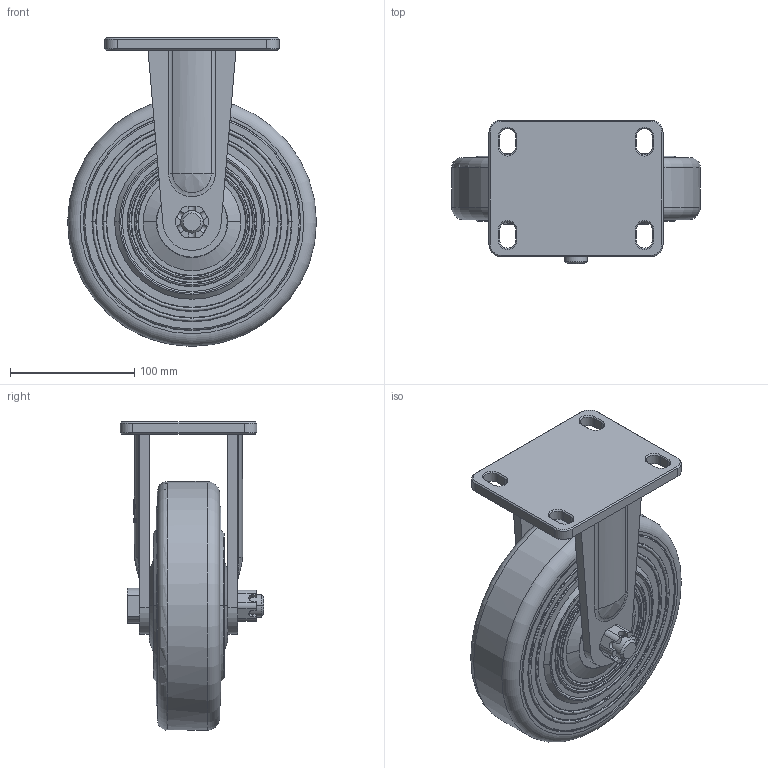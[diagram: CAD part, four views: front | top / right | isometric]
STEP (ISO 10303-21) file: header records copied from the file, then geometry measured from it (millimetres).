
FILE_DESCRIPTION(/* description */ (''),/* implementation_level */ '2;1');
FILE_NAME(/* name */ '35B09_8_F.stp',/* time_stamp */ '2022-08-27T16:49:21+08:00',/* author */ (''),/* organization */ (''),/* preprocessor_version */ 'ST-DEVELOPER v14',/* originating_system */ 'SIEMENS PLM Software NX 8.0',/* authorisation */ '');
FILE_SCHEMA (('AUTOMOTIVE_DESIGN { 1 0 10303 214 3 1 1 1 }'));
Length unit declared in the file: millimetre
Products named in the file (1): 35B09_8_F
Bounding box: 200 x 115.5 x 248 mm (x, y, z)
Volume: 1340621.5 mm3; surface area: 284492.5 mm2
Topology: 1 solids, 1 shells, 583 faces, 1445 edges, 915 vertices
Faces by surface type: plane 261, torus 146, cylinder 116, cone 50, bspline 10
Full cylindrical faces by diameter (mm): 200 x1
Entity records: 20363 total; most frequent: CARTESIAN_POINT 6007, DIRECTION 3297, ORIENTED_EDGE 2878, EDGE_CURVE 1439, AXIS2_PLACEMENT_3D 1391, VERTEX_POINT 912, EDGE_LOOP 649, CIRCLE 633
